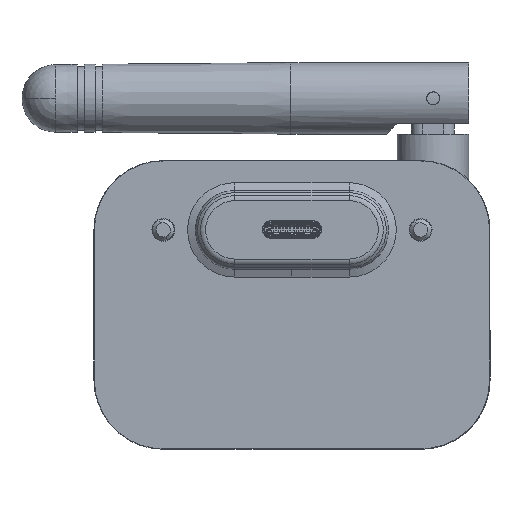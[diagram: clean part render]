
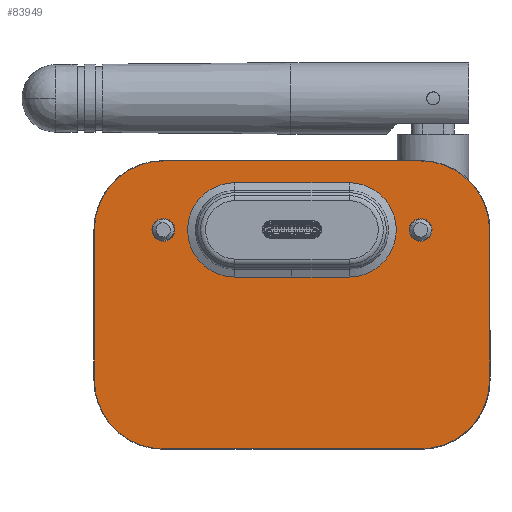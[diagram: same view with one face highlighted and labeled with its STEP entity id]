
A CAD part, front view. The second image highlights one B-rep face of the part: STEP entity #83949.
In plain terms, the highlighted planar face has unit normal (0, -1, 0).
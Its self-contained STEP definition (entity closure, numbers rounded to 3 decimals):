
#8 = CARTESIAN_POINT ( 'NONE',  ( -18., 0., 8.9 ) ) ;
#2946 = AXIS2_PLACEMENT_3D ( 'NONE', #87387, #10112, #34349 ) ;
#3525 = FACE_BOUND ( 'NONE', #27017, .T. ) ;
#3998 = EDGE_LOOP ( 'NONE', ( #87063, #40455 ) ) ;
#5234 = EDGE_CURVE ( 'NONE', #30601, #23070, #74191, .T. ) ;
#6022 = DIRECTION ( 'NONE',  ( 0., -1., 0. ) ) ;
#6533 = EDGE_CURVE ( 'NONE', #7456, #96844, #10015, .T. ) ;
#6581 = ORIENTED_EDGE ( 'NONE', *, *, #99755, .T. ) ;
#7456 = VERTEX_POINT ( 'NONE', #70603 ) ;
#7729 = EDGE_CURVE ( 'NONE', #22880, #9114, #68480, .T. ) ;
#7995 = VECTOR ( 'NONE', #83413, 1000. ) ;
#9114 = VERTEX_POINT ( 'NONE', #70995 ) ;
#10015 = CIRCLE ( 'NONE', #72959, 5.5 ) ;
#10112 = DIRECTION ( 'NONE',  ( 0., 1., 0. ) ) ;
#11563 = ORIENTED_EDGE ( 'NONE', *, *, #64913, .T. ) ;
#11900 = AXIS2_PLACEMENT_3D ( 'NONE', #16048, #76661, #77670 ) ;
#12005 = CIRCLE ( 'NONE', #26598, 9.636 ) ;
#12101 = AXIS2_PLACEMENT_3D ( 'NONE', #13622, #6022, #66191 ) ;
#12976 = ORIENTED_EDGE ( 'NONE', *, *, #5234, .F. ) ;
#13622 = CARTESIAN_POINT ( 'NONE',  ( 18.014, 0., -10.511 ) ) ;
#13740 = AXIS2_PLACEMENT_3D ( 'NONE', #77215, #62039, #60528 ) ;
#14217 = ORIENTED_EDGE ( 'NONE', *, *, #74681, .F. ) ;
#14555 = DIRECTION ( 'NONE',  ( -1., 0., 0. ) ) ;
#15220 = CARTESIAN_POINT ( 'NONE',  ( 0., 0., 20.147 ) ) ;
#16048 = CARTESIAN_POINT ( 'NONE',  ( 8., 0., 10.5 ) ) ;
#18517 = EDGE_LOOP ( 'NONE', ( #12976, #6581, #55991, #34037, #11563, #52489, #53865, #34097 ) ) ;
#21596 = ORIENTED_EDGE ( 'NONE', *, *, #97559, .F. ) ;
#22880 = VERTEX_POINT ( 'NONE', #74362 ) ;
#23061 = DIRECTION ( 'NONE',  ( 0., -1., 0. ) ) ;
#23070 = VERTEX_POINT ( 'NONE', #40816 ) ;
#23934 = CARTESIAN_POINT ( 'NONE',  ( 8., 0., 16. ) ) ;
#24062 = CARTESIAN_POINT ( 'NONE',  ( -18., 0., 10.5 ) ) ;
#24587 = VECTOR ( 'NONE', #25637, 1000. ) ;
#24818 = FACE_BOUND ( 'NONE', #88440, .T. ) ;
#25637 = DIRECTION ( 'NONE',  ( 1., 0., 0. ) ) ;
#26598 = AXIS2_PLACEMENT_3D ( 'NONE', #32102, #62908, #38667 ) ;
#27017 = EDGE_LOOP ( 'NONE', ( #28346, #38359, #46123, #14217 ) ) ;
#27621 = VERTEX_POINT ( 'NONE', #44536 ) ;
#28346 = ORIENTED_EDGE ( 'NONE', *, *, #49653, .F. ) ;
#29811 = CIRCLE ( 'NONE', #13740, 1.6 ) ;
#29852 = DIRECTION ( 'NONE',  ( 0., -1., 0. ) ) ;
#30107 = DIRECTION ( 'NONE',  ( 0., 0., 1. ) ) ;
#30601 = VERTEX_POINT ( 'NONE', #83254 ) ;
#31549 = VECTOR ( 'NONE', #77233, 1000. ) ;
#31776 = AXIS2_PLACEMENT_3D ( 'NONE', #80689, #81191, #66051 ) ;
#31916 = CARTESIAN_POINT ( 'NONE',  ( 18., 0., 12.1 ) ) ;
#32102 = CARTESIAN_POINT ( 'NONE',  ( -18.014, 0., -10.511 ) ) ;
#33345 = PLANE ( 'NONE',  #2946 ) ;
#34037 = ORIENTED_EDGE ( 'NONE', *, *, #38726, .T. ) ;
#34097 = ORIENTED_EDGE ( 'NONE', *, *, #72901, .T. ) ;
#34349 = DIRECTION ( 'NONE',  ( 0., 0., 1. ) ) ;
#35038 = EDGE_CURVE ( 'NONE', #75294, #45025, #60790, .T. ) ;
#35532 = VERTEX_POINT ( 'NONE', #23934 ) ;
#35822 = ORIENTED_EDGE ( 'NONE', *, *, #62409, .F. ) ;
#35998 = CARTESIAN_POINT ( 'NONE',  ( -18., 0., 10.5 ) ) ;
#37404 = CARTESIAN_POINT ( 'NONE',  ( -8., 0., 10.5 ) ) ;
#37665 = CARTESIAN_POINT ( 'NONE',  ( 18., 0., 10.5 ) ) ;
#38359 = ORIENTED_EDGE ( 'NONE', *, *, #68790, .F. ) ;
#38549 = DIRECTION ( 'NONE',  ( 0., 0., 1. ) ) ;
#38667 = DIRECTION ( 'NONE',  ( 0., 0., 1. ) ) ;
#38726 = EDGE_CURVE ( 'NONE', #22880, #61129, #78791, .T. ) ;
#39730 = VECTOR ( 'NONE', #82327, 1000. ) ;
#40455 = ORIENTED_EDGE ( 'NONE', *, *, #35038, .F. ) ;
#40816 = CARTESIAN_POINT ( 'NONE',  ( -18.014, 0., -20.147 ) ) ;
#43861 = CARTESIAN_POINT ( 'NONE',  ( 0., 0., -20.147 ) ) ;
#44536 = CARTESIAN_POINT ( 'NONE',  ( -27.65, 0., 10.511 ) ) ;
#44719 = VERTEX_POINT ( 'NONE', #86689 ) ;
#45025 = VERTEX_POINT ( 'NONE', #31916 ) ;
#45858 = AXIS2_PLACEMENT_3D ( 'NONE', #24062, #23061, #53840 ) ;
#46123 = ORIENTED_EDGE ( 'NONE', *, *, #6533, .F. ) ;
#46389 = LINE ( 'NONE', #84276, #31549 ) ;
#46733 = CARTESIAN_POINT ( 'NONE',  ( 27.65, 0., 0. ) ) ;
#47601 = VERTEX_POINT ( 'NONE', #50187 ) ;
#49145 = CARTESIAN_POINT ( 'NONE',  ( 18., 0., 8.9 ) ) ;
#49653 = EDGE_CURVE ( 'NONE', #77920, #35532, #61940, .T. ) ;
#50187 = CARTESIAN_POINT ( 'NONE',  ( -18.014, 0., 20.147 ) ) ;
#50512 = LINE ( 'NONE', #96984, #39730 ) ;
#50888 = CARTESIAN_POINT ( 'NONE',  ( -27.65, 0., -10.511 ) ) ;
#52489 = ORIENTED_EDGE ( 'NONE', *, *, #88766, .T. ) ;
#53840 = DIRECTION ( 'NONE',  ( 0., 0., 1. ) ) ;
#53865 = ORIENTED_EDGE ( 'NONE', *, *, #73782, .T. ) ;
#54573 = CARTESIAN_POINT ( 'NONE',  ( -8., 0., 5. ) ) ;
#55631 = CIRCLE ( 'NONE', #12101, 9.636 ) ;
#55991 = ORIENTED_EDGE ( 'NONE', *, *, #7729, .F. ) ;
#56390 = CARTESIAN_POINT ( 'NONE',  ( -8., 0., 5. ) ) ;
#56565 = FACE_BOUND ( 'NONE', #3998, .T. ) ;
#58146 = EDGE_CURVE ( 'NONE', #45025, #75294, #29811, .T. ) ;
#59961 = VECTOR ( 'NONE', #84118, 1000. ) ;
#60528 = DIRECTION ( 'NONE',  ( 0., 0., 1. ) ) ;
#60790 = CIRCLE ( 'NONE', #86593, 1.6 ) ;
#61129 = VERTEX_POINT ( 'NONE', #63305 ) ;
#61940 = CIRCLE ( 'NONE', #11900, 5.5 ) ;
#62039 = DIRECTION ( 'NONE',  ( 0., -1., 0. ) ) ;
#62409 = EDGE_CURVE ( 'NONE', #68225, #44719, #64131, .T. ) ;
#62908 = DIRECTION ( 'NONE',  ( 0., -1., 0. ) ) ;
#63305 = CARTESIAN_POINT ( 'NONE',  ( 18.014, 0., 20.147 ) ) ;
#64131 = CIRCLE ( 'NONE', #83514, 1.6 ) ;
#64913 = EDGE_CURVE ( 'NONE', #61129, #47601, #84410, .T. ) ;
#66051 = DIRECTION ( 'NONE',  ( 0., 0., 1. ) ) ;
#66191 = DIRECTION ( 'NONE',  ( 0., 0., 1. ) ) ;
#66807 = DIRECTION ( 'NONE',  ( 0., -1., 0. ) ) ;
#68225 = VERTEX_POINT ( 'NONE', #8 ) ;
#68480 = LINE ( 'NONE', #46733, #59961 ) ;
#68790 = EDGE_CURVE ( 'NONE', #96844, #77920, #95288, .T. ) ;
#68881 = CARTESIAN_POINT ( 'NONE',  ( 18.014, 0., 10.511 ) ) ;
#70603 = CARTESIAN_POINT ( 'NONE',  ( -8., 0., 16. ) ) ;
#70995 = CARTESIAN_POINT ( 'NONE',  ( 27.65, 0., -10.511 ) ) ;
#72381 = AXIS2_PLACEMENT_3D ( 'NONE', #68881, #76452, #38549 ) ;
#72901 = EDGE_CURVE ( 'NONE', #80848, #23070, #12005, .T. ) ;
#72959 = AXIS2_PLACEMENT_3D ( 'NONE', #37404, #29852, #91982 ) ;
#73782 = EDGE_CURVE ( 'NONE', #27621, #80848, #46389, .T. ) ;
#74191 = LINE ( 'NONE', #43861, #77762 ) ;
#74362 = CARTESIAN_POINT ( 'NONE',  ( 27.65, 0., 10.511 ) ) ;
#74681 = EDGE_CURVE ( 'NONE', #35532, #7456, #50512, .T. ) ;
#75294 = VERTEX_POINT ( 'NONE', #49145 ) ;
#75308 = CIRCLE ( 'NONE', #31776, 9.636 ) ;
#76452 = DIRECTION ( 'NONE',  ( 0., -1., 0. ) ) ;
#76661 = DIRECTION ( 'NONE',  ( 0., -1., 0. ) ) ;
#77215 = CARTESIAN_POINT ( 'NONE',  ( 18., 0., 10.5 ) ) ;
#77233 = DIRECTION ( 'NONE',  ( 0., 0., -1. ) ) ;
#77670 = DIRECTION ( 'NONE',  ( 0., 0., -1. ) ) ;
#77762 = VECTOR ( 'NONE', #14555, 1000. ) ;
#77920 = VERTEX_POINT ( 'NONE', #83556 ) ;
#78791 = CIRCLE ( 'NONE', #72381, 9.636 ) ;
#79320 = FACE_OUTER_BOUND ( 'NONE', #18517, .T. ) ;
#80689 = CARTESIAN_POINT ( 'NONE',  ( -18.014, 0., 10.511 ) ) ;
#80848 = VERTEX_POINT ( 'NONE', #50888 ) ;
#81191 = DIRECTION ( 'NONE',  ( 0., -1., 0. ) ) ;
#82327 = DIRECTION ( 'NONE',  ( -1., 0., 0. ) ) ;
#83254 = CARTESIAN_POINT ( 'NONE',  ( 18.014, 0., -20.147 ) ) ;
#83413 = DIRECTION ( 'NONE',  ( -1., 0., 0. ) ) ;
#83514 = AXIS2_PLACEMENT_3D ( 'NONE', #35998, #66807, #90023 ) ;
#83556 = CARTESIAN_POINT ( 'NONE',  ( 8., 0., 5. ) ) ;
#83949 = ADVANCED_FACE ( 'NONE', ( #24818, #56565, #79320, #3525 ), #33345, .F. ) ;
#84118 = DIRECTION ( 'NONE',  ( 0., 0., -1. ) ) ;
#84276 = CARTESIAN_POINT ( 'NONE',  ( -27.65, 0., 0. ) ) ;
#84410 = LINE ( 'NONE', #15220, #7995 ) ;
#86593 = AXIS2_PLACEMENT_3D ( 'NONE', #37665, #99307, #30107 ) ;
#86689 = CARTESIAN_POINT ( 'NONE',  ( -18., 0., 12.1 ) ) ;
#87063 = ORIENTED_EDGE ( 'NONE', *, *, #58146, .F. ) ;
#87387 = CARTESIAN_POINT ( 'NONE',  ( 0., 0., 0. ) ) ;
#88440 = EDGE_LOOP ( 'NONE', ( #21596, #35822 ) ) ;
#88766 = EDGE_CURVE ( 'NONE', #47601, #27621, #75308, .T. ) ;
#89412 = CIRCLE ( 'NONE', #45858, 1.6 ) ;
#90023 = DIRECTION ( 'NONE',  ( 0., 0., 1. ) ) ;
#91982 = DIRECTION ( 'NONE',  ( 0., 0., -1. ) ) ;
#95288 = LINE ( 'NONE', #56390, #24587 ) ;
#96844 = VERTEX_POINT ( 'NONE', #54573 ) ;
#96984 = CARTESIAN_POINT ( 'NONE',  ( 8., 0., 16. ) ) ;
#97559 = EDGE_CURVE ( 'NONE', #44719, #68225, #89412, .T. ) ;
#99307 = DIRECTION ( 'NONE',  ( 0., -1., 0. ) ) ;
#99755 = EDGE_CURVE ( 'NONE', #30601, #9114, #55631, .T. ) ;
